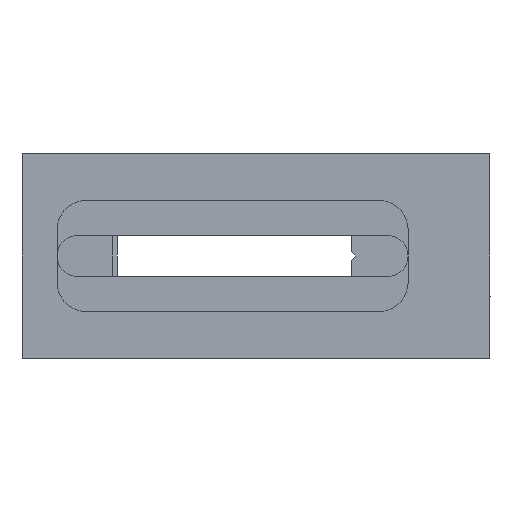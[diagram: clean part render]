
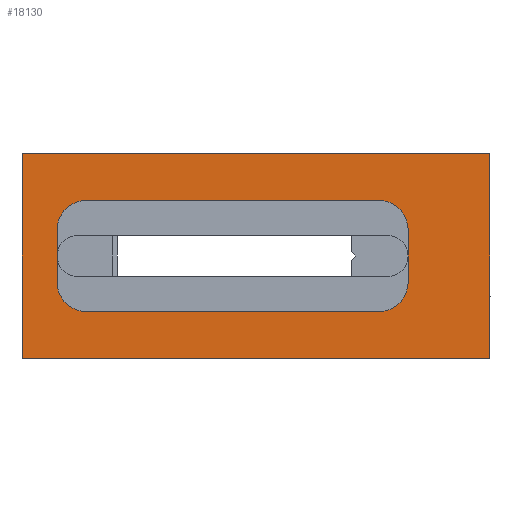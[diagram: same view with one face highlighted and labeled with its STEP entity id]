
A CAD part, front view. The second image highlights one B-rep face of the part: STEP entity #18130.
In plain terms, the highlighted planar face has unit normal (0, -1, 0).
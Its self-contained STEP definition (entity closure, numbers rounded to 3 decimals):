
#296 = CARTESIAN_POINT ( 'NONE',  ( 160., 0., -35. ) ) ;
#1340 = CIRCLE ( 'NONE', #13753, 10. ) ;
#1447 = DIRECTION ( 'NONE',  ( 0., 0., -1. ) ) ;
#1509 = DIRECTION ( 'NONE',  ( 0., 0., 1. ) ) ;
#1954 = DIRECTION ( 'NONE',  ( 1., 0., 0. ) ) ;
#2282 = VERTEX_POINT ( 'NONE', #12461 ) ;
#2489 = VERTEX_POINT ( 'NONE', #15832 ) ;
#2544 = VERTEX_POINT ( 'NONE', #7607 ) ;
#2564 = VERTEX_POINT ( 'NONE', #2643 ) ;
#2605 = DIRECTION ( 'NONE',  ( 0., 0., -1. ) ) ;
#2643 = CARTESIAN_POINT ( 'NONE',  ( 12., 0., 9. ) ) ;
#3195 = CARTESIAN_POINT ( 'NONE',  ( 122., 0., -9. ) ) ;
#3302 = LINE ( 'NONE', #11752, #11816 ) ;
#3460 = VERTEX_POINT ( 'NONE', #16602 ) ;
#3532 = EDGE_CURVE ( 'NONE', #18006, #2564, #5569, .T. ) ;
#4401 = EDGE_CURVE ( 'NONE', #17703, #9290, #5012, .T. ) ;
#4628 = EDGE_CURVE ( 'NONE', #2282, #2544, #15840, .T. ) ;
#4889 = DIRECTION ( 'NONE',  ( 0., 0., -1. ) ) ;
#4903 = VERTEX_POINT ( 'NONE', #13439 ) ;
#4970 = EDGE_CURVE ( 'NONE', #17703, #9421, #7594, .T. ) ;
#4998 = VECTOR ( 'NONE', #9856, 1000. ) ;
#5012 = LINE ( 'NONE', #19547, #14021 ) ;
#5073 = CARTESIAN_POINT ( 'NONE',  ( 122., 0., 19. ) ) ;
#5083 = DIRECTION ( 'NONE',  ( 0., -1., 0. ) ) ;
#5174 = VECTOR ( 'NONE', #18982, 1000. ) ;
#5215 = CIRCLE ( 'NONE', #6705, 10. ) ;
#5524 = LINE ( 'NONE', #11560, #4998 ) ;
#5569 = CIRCLE ( 'NONE', #11487, 10. ) ;
#5595 = LINE ( 'NONE', #8534, #12502 ) ;
#5957 = ORIENTED_EDGE ( 'NONE', *, *, #20035, .F. ) ;
#6080 = EDGE_CURVE ( 'NONE', #2489, #3460, #5524, .T. ) ;
#6532 = VERTEX_POINT ( 'NONE', #5073 ) ;
#6705 = AXIS2_PLACEMENT_3D ( 'NONE', #17486, #7334, #19225 ) ;
#6999 = EDGE_CURVE ( 'NONE', #3460, #6532, #5215, .T. ) ;
#7334 = DIRECTION ( 'NONE',  ( 0., -1., 0. ) ) ;
#7594 = LINE ( 'NONE', #12108, #16626 ) ;
#7607 = CARTESIAN_POINT ( 'NONE',  ( 122., 0., -19. ) ) ;
#7913 = ORIENTED_EDGE ( 'NONE', *, *, #15070, .F. ) ;
#8534 = CARTESIAN_POINT ( 'NONE',  ( 0., 0., -35. ) ) ;
#8592 = DIRECTION ( 'NONE',  ( 0., -1., 0. ) ) ;
#9290 = VERTEX_POINT ( 'NONE', #16964 ) ;
#9421 = VERTEX_POINT ( 'NONE', #18836 ) ;
#9590 = CIRCLE ( 'NONE', #14067, 10. ) ;
#9856 = DIRECTION ( 'NONE',  ( 0., 0., 1. ) ) ;
#10360 = DIRECTION ( 'NONE',  ( 1., 0., 0. ) ) ;
#10527 = ORIENTED_EDGE ( 'NONE', *, *, #17432, .F. ) ;
#10782 = EDGE_CURVE ( 'NONE', #9290, #16076, #5595, .T. ) ;
#10880 = ORIENTED_EDGE ( 'NONE', *, *, #11646, .F. ) ;
#11487 = AXIS2_PLACEMENT_3D ( 'NONE', #18762, #8592, #20488 ) ;
#11560 = CARTESIAN_POINT ( 'NONE',  ( 132., 0., -9. ) ) ;
#11646 = EDGE_CURVE ( 'NONE', #2564, #4903, #18194, .T. ) ;
#11752 = CARTESIAN_POINT ( 'NONE',  ( 160., 0., 35. ) ) ;
#11774 = EDGE_CURVE ( 'NONE', #9421, #16076, #3302, .T. ) ;
#11816 = VECTOR ( 'NONE', #11977, 1000. ) ;
#11977 = DIRECTION ( 'NONE',  ( 0., 0., -1. ) ) ;
#12108 = CARTESIAN_POINT ( 'NONE',  ( 0., 0., 35. ) ) ;
#12209 = CARTESIAN_POINT ( 'NONE',  ( 0., 0., 35. ) ) ;
#12461 = CARTESIAN_POINT ( 'NONE',  ( 22., 0., -19. ) ) ;
#12502 = VECTOR ( 'NONE', #18710, 1000. ) ;
#13439 = CARTESIAN_POINT ( 'NONE',  ( 12., 0., -9. ) ) ;
#13633 = ORIENTED_EDGE ( 'NONE', *, *, #6080, .F. ) ;
#13676 = VECTOR ( 'NONE', #1447, 1000. ) ;
#13753 = AXIS2_PLACEMENT_3D ( 'NONE', #15236, #5083, #16948 ) ;
#13827 = CARTESIAN_POINT ( 'NONE',  ( 22., 0., -19. ) ) ;
#14021 = VECTOR ( 'NONE', #2605, 1000. ) ;
#14036 = AXIS2_PLACEMENT_3D ( 'NONE', #20135, #16551, #1509 ) ;
#14067 = AXIS2_PLACEMENT_3D ( 'NONE', #3195, #15051, #4889 ) ;
#14971 = ORIENTED_EDGE ( 'NONE', *, *, #11774, .F. ) ;
#15051 = DIRECTION ( 'NONE',  ( 0., -1., 0. ) ) ;
#15070 = EDGE_CURVE ( 'NONE', #6532, #18006, #18727, .T. ) ;
#15236 = CARTESIAN_POINT ( 'NONE',  ( 22., 0., -9. ) ) ;
#15296 = ORIENTED_EDGE ( 'NONE', *, *, #4401, .T. ) ;
#15832 = CARTESIAN_POINT ( 'NONE',  ( 132., 0., -9. ) ) ;
#15840 = LINE ( 'NONE', #13827, #20407 ) ;
#16076 = VERTEX_POINT ( 'NONE', #296 ) ;
#16418 = FACE_OUTER_BOUND ( 'NONE', #18457, .T. ) ;
#16445 = EDGE_LOOP ( 'NONE', ( #19300, #10527, #10880, #19162, #7913, #17277, #13633, #5957 ) ) ;
#16551 = DIRECTION ( 'NONE',  ( 0., 1., 0. ) ) ;
#16602 = CARTESIAN_POINT ( 'NONE',  ( 132., 0., 9. ) ) ;
#16626 = VECTOR ( 'NONE', #1954, 1000. ) ;
#16948 = DIRECTION ( 'NONE',  ( 0., 0., -1. ) ) ;
#16964 = CARTESIAN_POINT ( 'NONE',  ( 0., 0., -35. ) ) ;
#17251 = CARTESIAN_POINT ( 'NONE',  ( 22., 0., 19. ) ) ;
#17277 = ORIENTED_EDGE ( 'NONE', *, *, #6999, .F. ) ;
#17432 = EDGE_CURVE ( 'NONE', #4903, #2282, #1340, .T. ) ;
#17486 = CARTESIAN_POINT ( 'NONE',  ( 122., 0., 9. ) ) ;
#17703 = VERTEX_POINT ( 'NONE', #12209 ) ;
#18006 = VERTEX_POINT ( 'NONE', #18115 ) ;
#18115 = CARTESIAN_POINT ( 'NONE',  ( 22., 0., 19. ) ) ;
#18130 = ADVANCED_FACE ( 'NONE', ( #20920, #16418 ), #21821, .F. ) ;
#18194 = LINE ( 'NONE', #21757, #13676 ) ;
#18457 = EDGE_LOOP ( 'NONE', ( #21918, #14971, #20314, #15296 ) ) ;
#18710 = DIRECTION ( 'NONE',  ( 1., 0., 0. ) ) ;
#18727 = LINE ( 'NONE', #17251, #5174 ) ;
#18762 = CARTESIAN_POINT ( 'NONE',  ( 22., 0., 9. ) ) ;
#18836 = CARTESIAN_POINT ( 'NONE',  ( 160., 0., 35. ) ) ;
#18982 = DIRECTION ( 'NONE',  ( -1., 0., 0. ) ) ;
#19162 = ORIENTED_EDGE ( 'NONE', *, *, #3532, .F. ) ;
#19225 = DIRECTION ( 'NONE',  ( 0., 0., -1. ) ) ;
#19300 = ORIENTED_EDGE ( 'NONE', *, *, #4628, .F. ) ;
#19547 = CARTESIAN_POINT ( 'NONE',  ( 0., 0., 35. ) ) ;
#20035 = EDGE_CURVE ( 'NONE', #2544, #2489, #9590, .T. ) ;
#20135 = CARTESIAN_POINT ( 'NONE',  ( 0., 0., 35. ) ) ;
#20314 = ORIENTED_EDGE ( 'NONE', *, *, #4970, .F. ) ;
#20407 = VECTOR ( 'NONE', #10360, 1000. ) ;
#20488 = DIRECTION ( 'NONE',  ( 0., 0., -1. ) ) ;
#20920 = FACE_BOUND ( 'NONE', #16445, .T. ) ;
#21757 = CARTESIAN_POINT ( 'NONE',  ( 12., 0., -9. ) ) ;
#21821 = PLANE ( 'NONE',  #14036 ) ;
#21918 = ORIENTED_EDGE ( 'NONE', *, *, #10782, .T. ) ;
